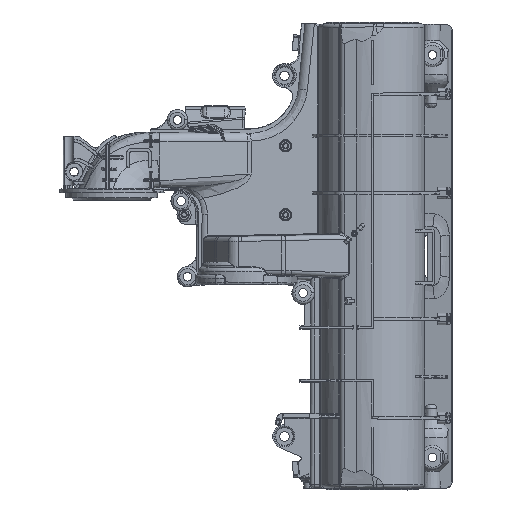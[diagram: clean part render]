
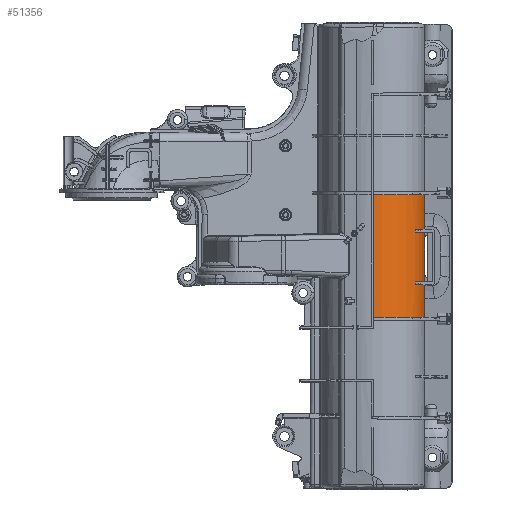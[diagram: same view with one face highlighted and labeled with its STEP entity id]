
A CAD part, top view. The second image highlights one B-rep face of the part: STEP entity #51356.
In plain terms, the highlighted cylindrical face has radius 27.35 mm (diameter 54.699 mm), a partial arc.
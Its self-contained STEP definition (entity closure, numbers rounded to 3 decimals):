
#7224=CARTESIAN_POINT('',(253.165,-32.226,29.16));
#7225=DIRECTION('',(0.,1.,0.));
#7226=DIRECTION('',(0.02,0.,1.));
#7227=AXIS2_PLACEMENT_3D('',#7224,#7225,#7226);
#7332=DIRECTION('',(0.,-1.,0.));
#7333=VECTOR('',#7332,64.453);
#7334=CARTESIAN_POINT('',(280.513,32.226,29.398));
#7335=LINE('',#7334,#7333);
#7336=DIRECTION('',(0.,1.,0.));
#7337=VECTOR('',#7336,32.226);
#7338=CARTESIAN_POINT('',(253.706,-32.226,56.504));
#7339=LINE('',#7338,#7337);
#7340=DIRECTION('',(0.,1.,0.));
#7341=VECTOR('',#7340,32.226);
#7342=CARTESIAN_POINT('',(253.708,0.,56.504));
#7343=LINE('',#7342,#7341);
#7344=DIRECTION('',(0.,-1.,0.));
#7345=VECTOR('',#7344,1.508);
#7346=CARTESIAN_POINT('',(275.549,14.077,44.874));
#7347=LINE('',#7346,#7345);
#7348=DIRECTION('',(0.,1.,0.));
#7349=VECTOR('',#7348,0.503);
#7350=CARTESIAN_POINT('',(280.202,12.569,33.277));
#7351=LINE('',#7350,#7349);
#7352=CARTESIAN_POINT('',(280.202,13.072,33.277));
#7353=CARTESIAN_POINT('',(280.202,13.211,33.277));
#7354=CARTESIAN_POINT('',(280.194,13.467,33.331));
#7355=CARTESIAN_POINT('',(280.16,13.801,33.55));
#7356=CARTESIAN_POINT('',(280.105,14.022,33.879));
#7357=CARTESIAN_POINT('',(280.059,14.077,34.131));
#7358=CARTESIAN_POINT('',(280.033,14.077,34.269));
#7360=CARTESIAN_POINT('',(280.033,-15.083,34.269));
#7361=CARTESIAN_POINT('',(280.059,-15.083,34.131));
#7362=CARTESIAN_POINT('',(280.105,-15.028,33.88));
#7363=CARTESIAN_POINT('',(280.16,-14.807,33.55));
#7364=CARTESIAN_POINT('',(280.194,-14.473,33.331));
#7365=CARTESIAN_POINT('',(280.202,-14.217,33.277));
#7366=CARTESIAN_POINT('',(280.202,-14.077,33.277));
#7368=DIRECTION('',(0.,1.,0.));
#7369=VECTOR('',#7368,0.503);
#7370=CARTESIAN_POINT('',(280.202,-14.077,33.277));
#7371=LINE('',#7370,#7369);
#7372=DIRECTION('',(0.,-1.,0.));
#7373=VECTOR('',#7372,1.508);
#7374=CARTESIAN_POINT('',(275.549,-13.574,44.874));
#7375=LINE('',#7374,#7373);
#7469=CARTESIAN_POINT('',(253.165,32.226,29.16));
#7470=DIRECTION('',(0.,-1.,0.));
#7471=DIRECTION('',(1.,0.,0.009));
#7472=AXIS2_PLACEMENT_3D('',#7469,#7470,#7471);
#27398=CARTESIAN_POINT('',(253.165,12.569,29.16));
#27399=DIRECTION('',(0.,-1.,0.));
#27400=DIRECTION('',(0.989,0.,0.151));
#27401=AXIS2_PLACEMENT_3D('',#27398,#27399,#27400);
#27425=CARTESIAN_POINT('',(253.165,14.077,29.16));
#27426=DIRECTION('',(0.,1.,0.));
#27427=DIRECTION('',(0.818,0.,0.575));
#27428=AXIS2_PLACEMENT_3D('',#27425,#27426,#27427);
#27497=CARTESIAN_POINT('',(253.165,-13.574,29.16));
#27498=DIRECTION('',(0.,1.,0.));
#27499=DIRECTION('',(0.818,0.,0.575));
#27500=AXIS2_PLACEMENT_3D('',#27497,#27498,#27499);
#27546=CARTESIAN_POINT('',(253.165,-15.083,29.16));
#27547=DIRECTION('',(0.,-1.,0.));
#27548=DIRECTION('',(0.982,0.,0.187));
#27549=AXIS2_PLACEMENT_3D('',#27546,#27547,#27548);
#35608=CARTESIAN_POINT('',(253.708,0.,
56.504));
#35609=VERTEX_POINT('',#35608);
#35610=CARTESIAN_POINT('',(253.706,-32.226,
56.504));
#35611=VERTEX_POINT('',#35610);
#35630=CARTESIAN_POINT('',(253.705,32.226,56.504));
#35631=VERTEX_POINT('',#35630);
#37100=CARTESIAN_POINT('',(280.513,-32.226,29.398));
#37101=VERTEX_POINT('',#37100);
#37138=CARTESIAN_POINT('',(280.513,32.226,29.398));
#37139=VERTEX_POINT('',#37138);
#37140=CARTESIAN_POINT('',(275.549,14.077,44.874));
#37141=CARTESIAN_POINT('',(275.549,12.569,44.874));
#37142=VERTEX_POINT('',#37140);
#37143=VERTEX_POINT('',#37141);
#37144=CARTESIAN_POINT('',(280.202,12.569,33.277));
#37145=VERTEX_POINT('',#37144);
#37146=CARTESIAN_POINT('',(280.202,13.072,33.277));
#37147=VERTEX_POINT('',#37146);
#37148=VERTEX_POINT('',#7358);
#37149=CARTESIAN_POINT('',(280.033,-15.083,34.269));
#37150=CARTESIAN_POINT('',(275.549,-15.083,44.874));
#37151=VERTEX_POINT('',#37149);
#37152=VERTEX_POINT('',#37150);
#37153=VERTEX_POINT('',#7366);
#37154=CARTESIAN_POINT('',(280.202,-13.574,33.277));
#37155=VERTEX_POINT('',#37154);
#37156=CARTESIAN_POINT('',(275.549,-13.574,44.874));
#37157=VERTEX_POINT('',#37156);
#51318=CARTESIAN_POINT('',(253.165,-121.867,29.16));
#51319=DIRECTION('',(0.,1.,0.));
#51320=DIRECTION('',(0.,0.,1.));
#51321=AXIS2_PLACEMENT_3D('',#51318,#51319,#51320);
#51322=CYLINDRICAL_SURFACE('',#51321,27.35);
#51324=ORIENTED_EDGE('',*,*,#51323,.F.);
#51326=ORIENTED_EDGE('',*,*,#51325,.T.);
#51327=ORIENTED_EDGE('',*,*,#51247,.F.);
#51328=ORIENTED_EDGE('',*,*,#43718,.T.);
#51329=ORIENTED_EDGE('',*,*,#43748,.T.);
#51330=EDGE_LOOP('',(#51324,#51326,#51327,#51328,#51329));
#51331=FACE_OUTER_BOUND('',#51330,.F.);
#51333=ORIENTED_EDGE('',*,*,#51332,.T.);
#51335=ORIENTED_EDGE('',*,*,#51334,.F.);
#51337=ORIENTED_EDGE('',*,*,#51336,.T.);
#51339=ORIENTED_EDGE('',*,*,#51338,.T.);
#51341=ORIENTED_EDGE('',*,*,#51340,.F.);
#51342=EDGE_LOOP('',(#51333,#51335,#51337,#51339,#51341));
#51343=FACE_BOUND('',#51342,.F.);
#51345=ORIENTED_EDGE('',*,*,#51344,.F.);
#51347=ORIENTED_EDGE('',*,*,#51346,.T.);
#51349=ORIENTED_EDGE('',*,*,#51348,.T.);
#51351=ORIENTED_EDGE('',*,*,#51350,.F.);
#51353=ORIENTED_EDGE('',*,*,#51352,.T.);
#51354=EDGE_LOOP('',(#51345,#51347,#51349,#51351,#51353));
#51355=FACE_BOUND('',#51354,.F.);
#51356=ADVANCED_FACE('',(#51331,#51343,#51355),#51322,.T.);
#7228=CIRCLE('',#7227,27.35);
#7359=B_SPLINE_CURVE_WITH_KNOTS('',3,(#7352,#7353,#7354,#7355,#7356,#7357,
#7358),.UNSPECIFIED.,.F.,.F.,(4,1,1,1,4),(0.,0.25,0.5,0.75,1.),
.UNSPECIFIED.);
#7367=B_SPLINE_CURVE_WITH_KNOTS('',3,(#7360,#7361,#7362,#7363,#7364,#7365,
#7366),.UNSPECIFIED.,.F.,.F.,(4,1,1,1,4),(0.,0.25,0.5,0.75,1.),
.UNSPECIFIED.);
#7473=CIRCLE('',#7472,27.35);
#27402=CIRCLE('',#27401,27.35);
#27429=CIRCLE('',#27428,27.35);
#27501=CIRCLE('',#27500,27.35);
#27550=CIRCLE('',#27549,27.35);
#43718=EDGE_CURVE('',#35611,#35609,#7339,.T.);
#43748=EDGE_CURVE('',#35609,#35631,#7343,.T.);
#51247=EDGE_CURVE('',#35611,#37101,#7228,.T.);
#51323=EDGE_CURVE('',#37139,#35631,#7473,.T.);
#51325=EDGE_CURVE('',#37139,#37101,#7335,.T.);
#51332=EDGE_CURVE('',#37142,#37143,#7347,.T.);
#51334=EDGE_CURVE('',#37145,#37143,#27402,.T.);
#51336=EDGE_CURVE('',#37145,#37147,#7351,.T.);
#51338=EDGE_CURVE('',#37147,#37148,#7359,.T.);
#51340=EDGE_CURVE('',#37142,#37148,#27429,.T.);
#51344=EDGE_CURVE('',#37151,#37152,#27550,.T.);
#51346=EDGE_CURVE('',#37151,#37153,#7367,.T.);
#51348=EDGE_CURVE('',#37153,#37155,#7371,.T.);
#51350=EDGE_CURVE('',#37157,#37155,#27501,.T.);
#51352=EDGE_CURVE('',#37157,#37152,#7375,.T.);
